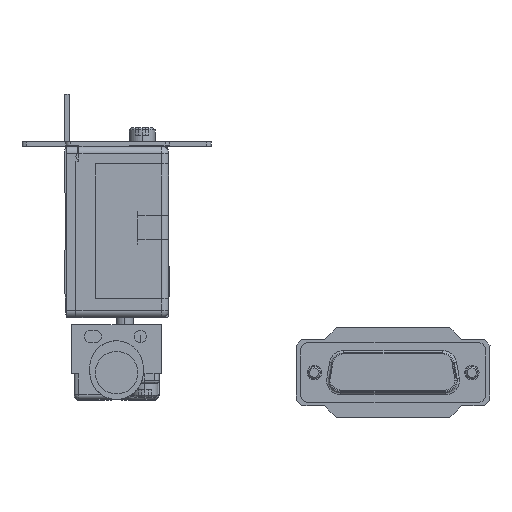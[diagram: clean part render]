
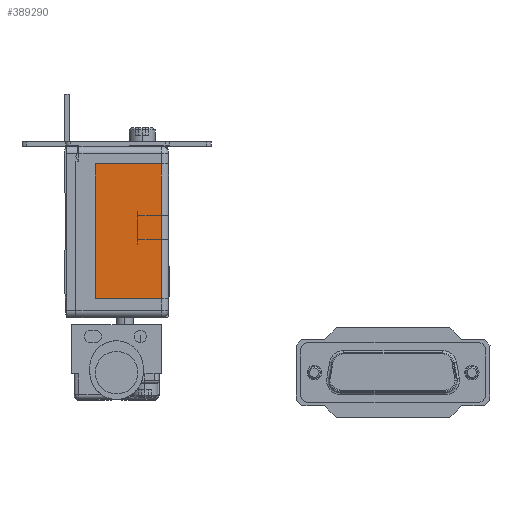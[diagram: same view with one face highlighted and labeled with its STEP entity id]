
A CAD part, left-side view. The second image highlights one B-rep face of the part: STEP entity #389290.
In plain terms, the highlighted planar face has unit normal (-1, 0, 0).
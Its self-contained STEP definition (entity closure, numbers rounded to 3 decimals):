
#388900=CARTESIAN_POINT('',(637.3,3.267,5.907));
#388910=DIRECTION('',(-1.,0.,0.));
#388920=DIRECTION('',(0.,1.,0.));
#388930=AXIS2_PLACEMENT_3D('',#388900,#388910,#388920);
#388940=PLANE('',#388930);
#388950=CARTESIAN_POINT('',(637.3,0.,4.)
);
#388960=DIRECTION('',(0.,1.,0.));
#388970=VECTOR('',#388960,1.);
#388980=LINE('',#388950,#388970);
#388990=CARTESIAN_POINT('',(637.3,1.5,4.));
#389000=VERTEX_POINT('',#388990);
#389010=CARTESIAN_POINT('',(637.3,15.5,4.));
#389020=VERTEX_POINT('',#389010);
#389030=EDGE_CURVE('',#389000,#389020,#388980,.T.);
#389040=ORIENTED_EDGE('',*,*,#389030,.F.);
#389050=CARTESIAN_POINT('',(637.3,15.5,4.));
#389060=DIRECTION('',(0.,0.,1.));
#389070=VECTOR('',#389060,1.);
#389080=LINE('',#389050,#389070);
#389090=CARTESIAN_POINT('',(637.3,15.5,32.5));
#389100=VERTEX_POINT('',#389090);
#389110=EDGE_CURVE('',#389020,#389100,#389080,.T.);
#389120=ORIENTED_EDGE('',*,*,#389110,.F.);
#389130=CARTESIAN_POINT('',(637.3,15.5,32.5));
#389140=DIRECTION('',(0.,-1.,0.));
#389150=VECTOR('',#389140,1.);
#389160=LINE('',#389130,#389150);
#389170=CARTESIAN_POINT('',(637.3,1.5,32.5));
#389180=VERTEX_POINT('',#389170);
#389190=EDGE_CURVE('',#389100,#389180,#389160,.T.);
#389200=ORIENTED_EDGE('',*,*,#389190,.F.);
#389210=CARTESIAN_POINT('',(637.3,1.5,36.5));
#389220=DIRECTION('',(0.,0.,-1.));
#389230=VECTOR('',#389220,1.);
#389240=LINE('',#389210,#389230);
#389250=EDGE_CURVE('',#389180,#389000,#389240,.T.);
#389260=ORIENTED_EDGE('',*,*,#389250,.F.);
#389270=EDGE_LOOP('',(#389260,#389200,#389120,#389040));
#389280=FACE_OUTER_BOUND('',#389270,.T.);
#389290=ADVANCED_FACE('',(#389280),#388940,.T.);
